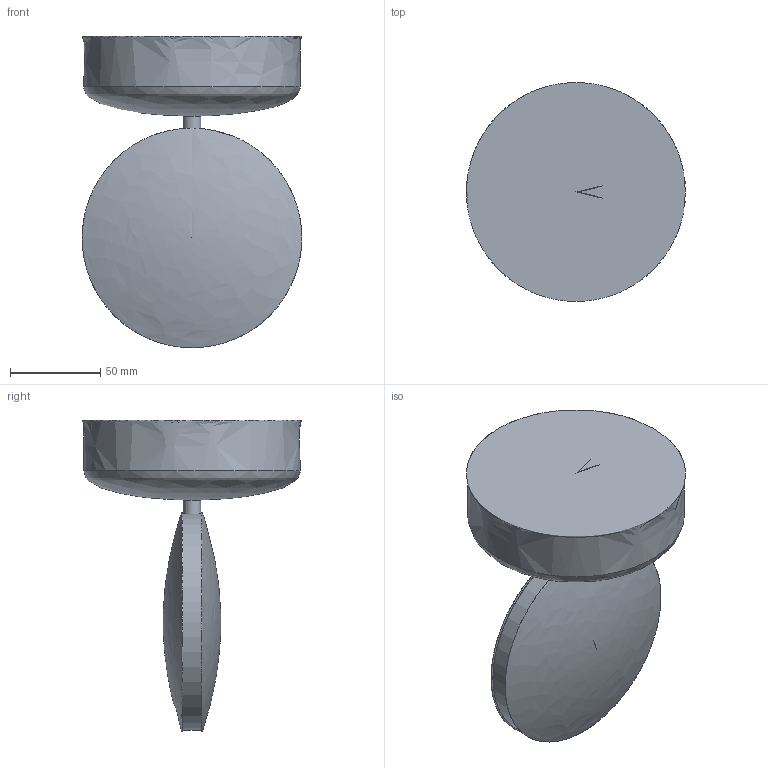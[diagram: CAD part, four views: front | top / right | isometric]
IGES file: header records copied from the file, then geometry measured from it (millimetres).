
Global section: file name: C:\Users\EQUIPO\Desktop\COLECCIONES ACB MODELADAS 3D OK\SPECTRA\spectra-3731-led-3200 (IGES).igs; native system: Rhinoceros ( Oct  8 2013 ); preprocessor: Trout Lake IGES 012 Oct  8 2013; date: 190207.105007; units: millimetre
Bounding box: 121.36 x 121 x 172.2 mm (x, y, z)
Surface area: 108835.4 mm2 (no closed solid volume)
Topology: 0 solids, 0 shells, 8 faces, 20 edges, 14 vertices
Faces by surface type: bspline 8
